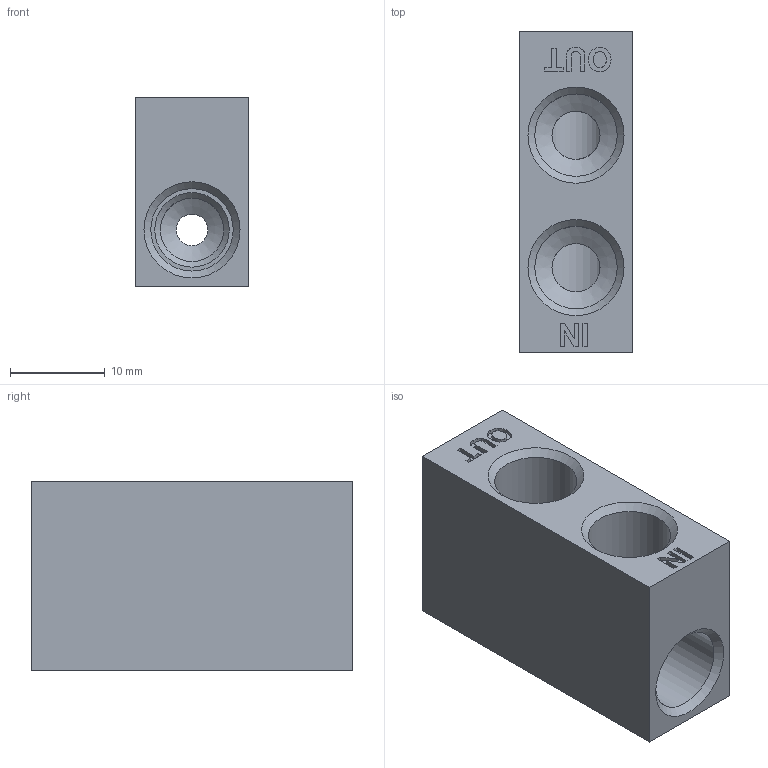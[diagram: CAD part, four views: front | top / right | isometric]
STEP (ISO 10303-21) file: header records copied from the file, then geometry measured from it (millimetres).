
FILE_DESCRIPTION(/* description */ (''),/* implementation_level */ '2;1');
FILE_NAME(/* name */ 'C:/Users/drich/Desktop/cad/Cascades/Jet Cool/Components/Head Only/BSPT/JCH-M4-BSPT v1.step',/* time_stamp */ '2020-01-10T15:27:18-06:00',/* author */ (''),/* organization */ (''),/* preprocessor_version */ 'ST-DEVELOPER v18',/* originating_system */ 'Autodesk Translation Framework v8.12.0.6',/* authorisation */ '');
FILE_SCHEMA (('AUTOMOTIVE_DESIGN { 1 0 10303 214 3 1 1 }'));
Length unit declared in the file: inch
Products named in the file (1): JCH-M4-BSPT
Bounding box: 11.99 x 33.99 x 19.99 mm (x, y, z)
Volume: 5748 mm3; surface area: 3727 mm2
Topology: 1 solids, 1 shells, 88 faces, 238 edges, 157 vertices
Faces by surface type: plane 41, bspline 32, cone 8, cylinder 7
Full cylindrical faces by diameter (mm): 3.332 x1, 5.08 x2, 6.697 x1, 8.707 x3
Entity records: 3165 total; most frequent: CARTESIAN_POINT 1106, ORIENTED_EDGE 476, DIRECTION 305, EDGE_CURVE 238, VERTEX_POINT 157, LINE 145, VECTOR 145, EDGE_LOOP 99
